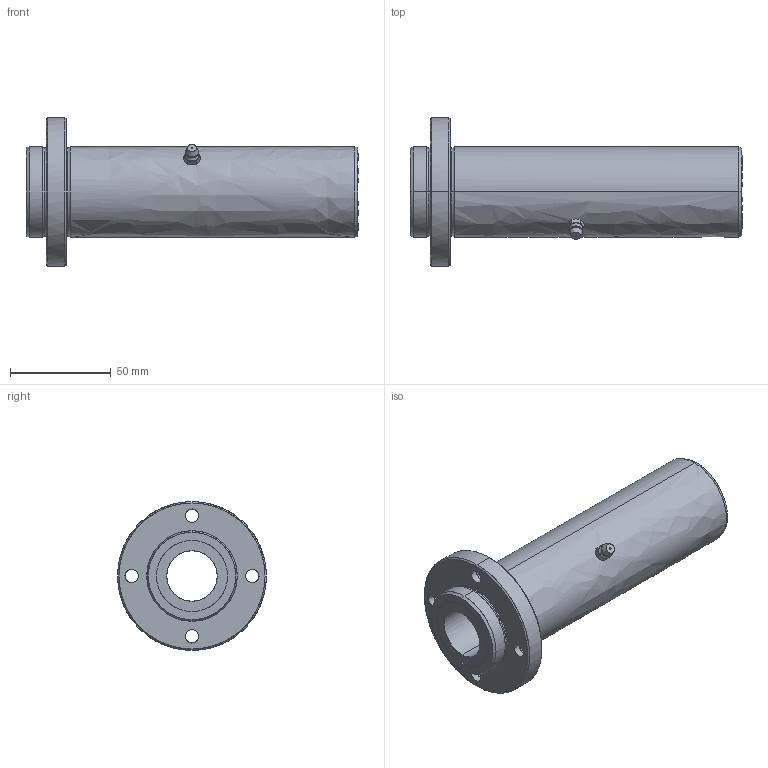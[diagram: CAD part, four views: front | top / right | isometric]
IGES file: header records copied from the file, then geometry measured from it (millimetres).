
Global section: file name: No Iges File Name specified; native system: AutoDesk Inventor R10; preprocessor: AutoDesk Inventor Iges Exporter R10; author: No Author specified; organization: No Organization specified; date: 20101211.162555; units: millimetre
Bounding box: 165 x 74 x 74 mm (x, y, z)
Surface area: 45705.7 mm2 (no closed solid volume)
Topology: 0 solids, 0 shells, 92 faces, 612 edges, 610 vertices
Faces by surface type: bspline 92
